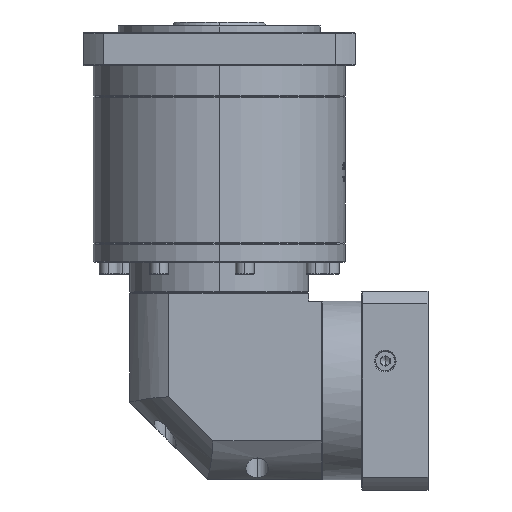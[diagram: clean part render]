
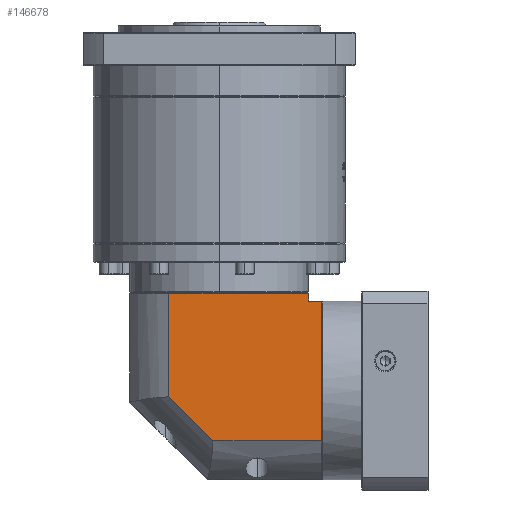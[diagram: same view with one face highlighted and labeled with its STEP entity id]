
A CAD part, left-side view. The second image highlights one B-rep face of the part: STEP entity #146678.
In plain terms, the highlighted planar face has unit normal (-1, 0, 0).
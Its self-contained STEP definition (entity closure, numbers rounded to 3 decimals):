
#5693 = LINE ( 'NONE', #139191, #136485 ) ;
#12352 = VECTOR ( 'NONE', #115738, 1000. ) ;
#12601 = AXIS2_PLACEMENT_3D ( 'NONE', #154337, #60387, #70859 ) ;
#13119 = CARTESIAN_POINT ( 'NONE',  ( -253.274, 14.756, 95.941 ) ) ;
#18163 = VERTEX_POINT ( 'NONE', #61254 ) ;
#18314 = CARTESIAN_POINT ( 'NONE',  ( -253.274, -75.144, 89.441 ) ) ;
#19864 = VECTOR ( 'NONE', #64881, 1000. ) ;
#19942 = EDGE_CURVE ( 'NONE', #96731, #115710, #92026, .T. ) ;
#23609 = LINE ( 'NONE', #110887, #19864 ) ;
#24915 = VERTEX_POINT ( 'NONE', #103795 ) ;
#29644 = CARTESIAN_POINT ( 'NONE',  ( -253.274, -83.544, 84.441 ) ) ;
#33029 = LINE ( 'NONE', #114909, #152488 ) ;
#37236 = EDGE_CURVE ( 'NONE', #24915, #96731, #152344, .T. ) ;
#38078 = LINE ( 'NONE', #55749, #39875 ) ;
#39503 = FACE_OUTER_BOUND ( 'NONE', #122997, .T. ) ;
#39875 = VECTOR ( 'NONE', #139253, 1000. ) ;
#40385 = DIRECTION ( 'NONE',  ( 0., -1., 0. ) ) ;
#42082 = LINE ( 'NONE', #130780, #57010 ) ;
#44602 = EDGE_CURVE ( 'NONE', #150668, #50598, #5693, .T. ) ;
#48140 = CARTESIAN_POINT ( 'NONE',  ( -253.274, 14.756, 89.441 ) ) ;
#50598 = VERTEX_POINT ( 'NONE', #18314 ) ;
#52788 = VECTOR ( 'NONE', #72562, 1000. ) ;
#55419 = DIRECTION ( 'NONE',  ( 0., 0., -1. ) ) ;
#55749 = CARTESIAN_POINT ( 'NONE',  ( -253.274, -75.144, 84.441 ) ) ;
#57010 = VECTOR ( 'NONE', #40385, 1000. ) ;
#60387 = DIRECTION ( 'NONE',  ( 1., 0., 0. ) ) ;
#61230 = ORIENTED_EDGE ( 'NONE', *, *, #37236, .F. ) ;
#61254 = CARTESIAN_POINT ( 'NONE',  ( -253.274, -83.544, -5.459 ) ) ;
#62515 = ORIENTED_EDGE ( 'NONE', *, *, #70984, .F. ) ;
#63486 = EDGE_CURVE ( 'NONE', #118382, #18163, #33029, .T. ) ;
#64881 = DIRECTION ( 'NONE',  ( 0., 1., 0. ) ) ;
#70859 = DIRECTION ( 'NONE',  ( 0., 1., 0. ) ) ;
#70984 = EDGE_CURVE ( 'NONE', #18163, #24915, #23609, .T. ) ;
#71387 = EDGE_CURVE ( 'NONE', #115710, #50598, #42082, .T. ) ;
#72562 = DIRECTION ( 'NONE',  ( 0., 0., 1. ) ) ;
#76295 = EDGE_CURVE ( 'NONE', #118382, #150668, #38078, .T. ) ;
#81291 = CARTESIAN_POINT ( 'NONE',  ( -253.274, -13.582, -5.459 ) ) ;
#92026 = LINE ( 'NONE', #13119, #52788 ) ;
#95904 = PLANE ( 'NONE',  #12601 ) ;
#96731 = VERTEX_POINT ( 'NONE', #133621 ) ;
#97482 = ORIENTED_EDGE ( 'NONE', *, *, #44602, .T. ) ;
#103795 = CARTESIAN_POINT ( 'NONE',  ( -253.274, -13.582, -5.459 ) ) ;
#110887 = CARTESIAN_POINT ( 'NONE',  ( -253.274, 39.856, -5.459 ) ) ;
#114909 = CARTESIAN_POINT ( 'NONE',  ( -253.274, -83.544, 95.941 ) ) ;
#115710 = VERTEX_POINT ( 'NONE', #48140 ) ;
#115738 = DIRECTION ( 'NONE',  ( 0., 0.707, 0.707 ) ) ;
#118382 = VERTEX_POINT ( 'NONE', #29644 ) ;
#122997 = EDGE_LOOP ( 'NONE', ( #152472, #61230, #62515, #154571, #146304, #97482, #139161 ) ) ;
#125088 = DIRECTION ( 'NONE',  ( 0., 0., 1. ) ) ;
#125953 = CARTESIAN_POINT ( 'NONE',  ( -253.274, -75.144, 84.441 ) ) ;
#130780 = CARTESIAN_POINT ( 'NONE',  ( -253.274, 39.856, 89.441 ) ) ;
#133621 = CARTESIAN_POINT ( 'NONE',  ( -253.274, 14.756, 22.879 ) ) ;
#136485 = VECTOR ( 'NONE', #125088, 1000. ) ;
#139161 = ORIENTED_EDGE ( 'NONE', *, *, #71387, .F. ) ;
#139191 = CARTESIAN_POINT ( 'NONE',  ( -253.274, -75.144, -30.559 ) ) ;
#139253 = DIRECTION ( 'NONE',  ( 0., 1., 0. ) ) ;
#146304 = ORIENTED_EDGE ( 'NONE', *, *, #76295, .T. ) ;
#146678 = ADVANCED_FACE ( 'NONE', ( #39503 ), #95904, .F. ) ;
#150668 = VERTEX_POINT ( 'NONE', #125953 ) ;
#152344 = LINE ( 'NONE', #81291, #12352 ) ;
#152472 = ORIENTED_EDGE ( 'NONE', *, *, #19942, .F. ) ;
#152488 = VECTOR ( 'NONE', #55419, 1000. ) ;
#154337 = CARTESIAN_POINT ( 'NONE',  ( -253.274, 39.856, 95.941 ) ) ;
#154571 = ORIENTED_EDGE ( 'NONE', *, *, #63486, .F. ) ;
